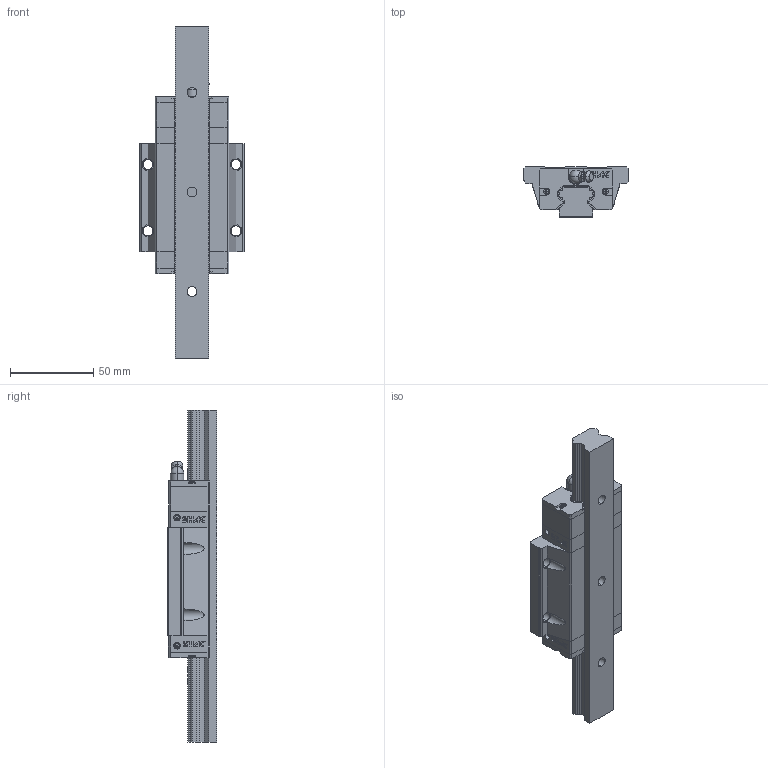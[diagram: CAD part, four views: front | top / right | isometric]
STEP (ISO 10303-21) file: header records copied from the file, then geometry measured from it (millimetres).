
FILE_DESCRIPTION (( 'STEP AP214' ), '1' );
FILE_NAME ('STP_GHW20HC_(E2)自润式_(R)上锁式_刮油片＋防尘条_1_200_200_GHW20HC_GHW20HC.step', '2020-06-27T02:08:06', ( 'IT Division' ), ( 'IT' ), 'SwSTEP 2.0', 'SolidWorks 2016', '' );
FILE_SCHEMA (( 'AUTOMOTIVE_DESIGN' ));
Length unit declared in the file: millimetre
Products named in the file (3): STP_GHW20HC_(E2)自润式_(R)上锁式_刮油片＋防尘条_1_200_200_GHW20HC_GHW20HC; STP_GHW20HC_(E2)自润式_(R)上锁式_刮油片＋防尘条_1_200_200_GHW20HC_GHW20HC_2; STP_GHW20HC_(E2)自润式_(R)上锁式_刮油片＋防尘条_1_200_200_GHW20HC_GHW20HC_1
Assembly tree (2 placements, depth 2):
  STP_GHW20HC_(E2)自润式_(R)上锁式_刮油片＋防尘条_1_200_200_GHW20HC_GHW20HC
    STP_GHW20HC_(E2)自润式_(R)上锁式_刮油片＋防尘条_1_200_200_GHW20HC_GHW20HC_1
    STP_GHW20HC_(E2)自润式_(R)上锁式_刮油片＋防尘条_1_200_200_GHW20HC_GHW20HC_2
Bounding box: 63 x 30 x 200 mm (x, y, z)
Volume: 169186.2 mm3; surface area: 49286.7 mm2
Topology: 8 solids, 8 shells, 859 faces, 2325 edges, 1530 vertices
Faces by surface type: plane 641, cylinder 160, torus 25, cone 23, sphere 10
Entity records: 30867 total; most frequent: CARTESIAN_POINT 4901, ORIENTED_EDGE 4642, DIRECTION 4474, EDGE_CURVE 2321, VECTOR 1816, LINE 1816, VERTEX_POINT 1528, AXIS2_PLACEMENT_3D 1329
